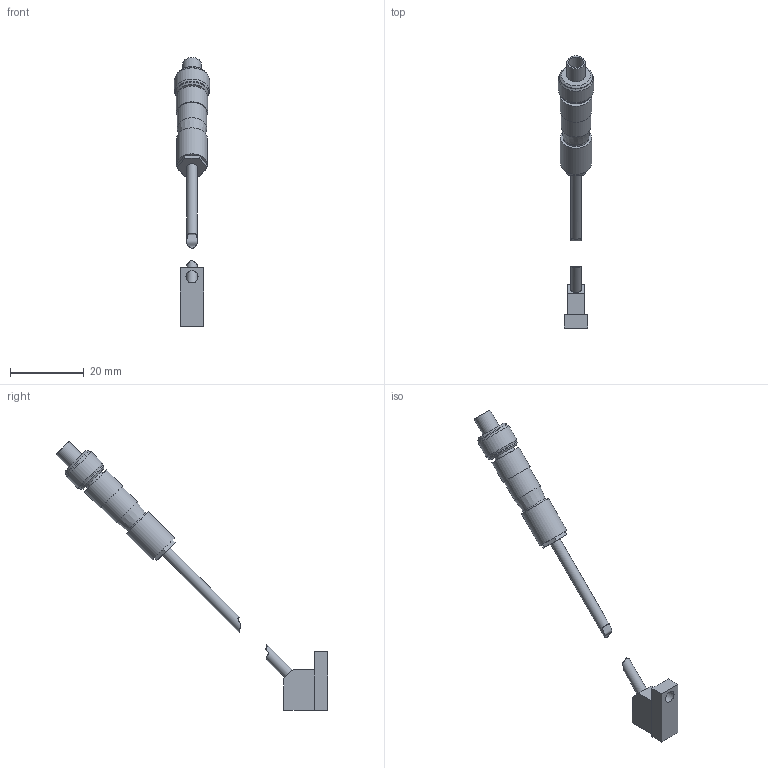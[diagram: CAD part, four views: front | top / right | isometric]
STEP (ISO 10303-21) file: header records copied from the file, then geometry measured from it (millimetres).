
FILE_DESCRIPTION(/* description */ (''),/* implementation_level */ '2;1');
FILE_NAME(/* name */ 'T:\CAD\Standard\Daten\3D-Datenbank\RSGU\4 - 3D-CAD-Daten\RSGU01-300-M8.stp',/* time_stamp */ '2016-06-28T11:06:21+02:00',/* author */ ('Praktikant'),/* organization */ ('GRIP GmbH'),/* preprocessor_version */ 'ST-DEVELOPER v15.2',/* originating_system */ 'Autodesk Inventor 2014',/* authorisation */ '');
FILE_SCHEMA (('AUTOMOTIVE_DESIGN { 1 0 10303 214 3 1 1 }'));
Length unit declared in the file: millimetre
Products named in the file (4): G-RSGU01; RSGU M8 Stecker; Kabelende; RSGU01-300-M8
Assembly tree (3 placements, depth 2):
  RSGU01-300-M8
    G-RSGU01
    RSGU M8 Stecker
    Kabelende
Bounding box: 9.6 x 73.95 x 73.15 mm (x, y, z)
Volume: 2959.5 mm3; surface area: 2272.3 mm2
Topology: 3 solids, 3 shells, 49 faces, 100 edges, 66 vertices
Faces by surface type: plane 28, cylinder 14, cone 5, bspline 2
Full cylindrical faces by diameter (mm): 1.7 x1, 2.9 x2, 3.3 x1, 4 x1, 5 x1, 5.9 x1, 7 x1, 8 x1, 8.473 x1, 8.5 x1, 9 x2, 9.6 x1
Entity records: 1455 total; most frequent: CARTESIAN_POINT 363, DIRECTION 209, ORIENTED_EDGE 154, AXIS2_PLACEMENT_3D 82, EDGE_LOOP 79, EDGE_CURVE 77, VERTEX_POINT 62, ADVANCED_FACE 49
